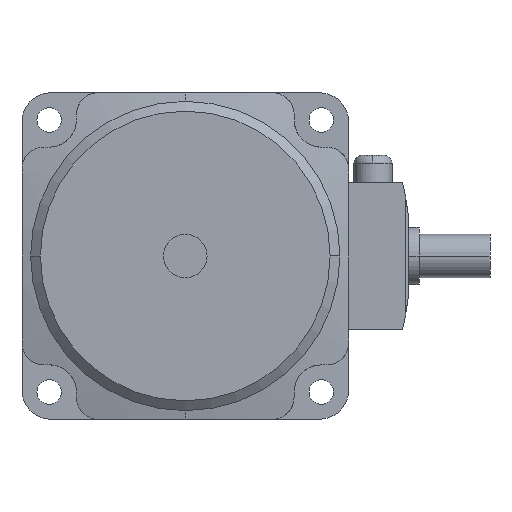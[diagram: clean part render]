
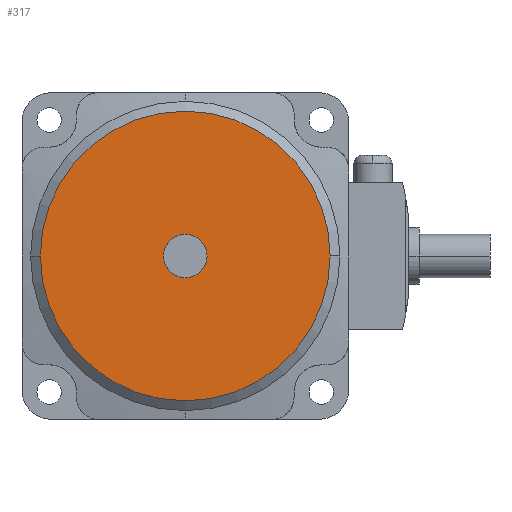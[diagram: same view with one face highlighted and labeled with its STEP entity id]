
A CAD part, left-side view. The second image highlights one B-rep face of the part: STEP entity #317.
In plain terms, the highlighted planar face has unit normal (-1, 0, 0).
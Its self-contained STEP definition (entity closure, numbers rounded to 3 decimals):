
#317 = ADVANCED_FACE( '', ( #819, #820 ), #821, .F. );
#819 = FACE_BOUND( '', #1328, .T. );
#820 = FACE_OUTER_BOUND( '', #1329, .T. );
#821 = PLANE( '', #1330 );
#1328 = EDGE_LOOP( '', ( #3418, #3419 ) );
#1329 = EDGE_LOOP( '', ( #3420, #3421 ) );
#1330 = AXIS2_PLACEMENT_3D( '', #3422, #3423, #3424 );
#3418 = ORIENTED_EDGE( '', *, *, #3516, .T. );
#3419 = ORIENTED_EDGE( '', *, *, #3512, .T. );
#3420 = ORIENTED_EDGE( '', *, *, #3482, .T. );
#3421 = ORIENTED_EDGE( '', *, *, #4116, .T. );
#3422 = CARTESIAN_POINT( '', ( -64.5, 0., 0. ) );
#3423 = DIRECTION( '', ( 1., 0., 0. ) );
#3424 = DIRECTION( '', ( 0., 0., -1. ) );
#3482 = EDGE_CURVE( '', #4201, #4204, #4206, .T. );
#3512 = EDGE_CURVE( '', #4265, #4262, #4266, .T. );
#3516 = EDGE_CURVE( '', #4262, #4265, #4271, .T. );
#4116 = EDGE_CURVE( '', #4204, #4201, #5261, .T. );
#4201 = VERTEX_POINT( '', #5456 );
#4204 = VERTEX_POINT( '', #5460 );
#4206 = CIRCLE( '', #5463, 26.616 );
#4262 = VERTEX_POINT( '', #5530 );
#4265 = VERTEX_POINT( '', #5534 );
#4266 = CIRCLE( '', #5535, 4. );
#4271 = CIRCLE( '', #5541, 4. );
#5261 = CIRCLE( '', #7135, 26.616 );
#5456 = CARTESIAN_POINT( '', ( -64.5, 26.616, 0. ) );
#5460 = CARTESIAN_POINT( '', ( -64.5, -26.616, 0. ) );
#5463 = AXIS2_PLACEMENT_3D( '', #7223, #7224, #7225 );
#5530 = CARTESIAN_POINT( '', ( -64.5, 4., 0. ) );
#5534 = CARTESIAN_POINT( '', ( -64.5, -4., 0. ) );
#5535 = AXIS2_PLACEMENT_3D( '', #7289, #7290, #7291 );
#5541 = AXIS2_PLACEMENT_3D( '', #7299, #7300, #7301 );
#7135 = AXIS2_PLACEMENT_3D( '', #8249, #8250, #8251 );
#7223 = CARTESIAN_POINT( '', ( -64.5, 0., 0. ) );
#7224 = DIRECTION( '', ( -1., 0., 0. ) );
#7225 = DIRECTION( '', ( 0., 1., 0. ) );
#7289 = CARTESIAN_POINT( '', ( -64.5, 0., 0. ) );
#7290 = DIRECTION( '', ( 1., 0., 0. ) );
#7291 = DIRECTION( '', ( 0., 1., 0. ) );
#7299 = CARTESIAN_POINT( '', ( -64.5, 0., 0. ) );
#7300 = DIRECTION( '', ( 1., 0., 0. ) );
#7301 = DIRECTION( '', ( 0., 1., 0. ) );
#8249 = CARTESIAN_POINT( '', ( -64.5, 0., 0. ) );
#8250 = DIRECTION( '', ( -1., 0., 0. ) );
#8251 = DIRECTION( '', ( 0., 1., 0. ) );
